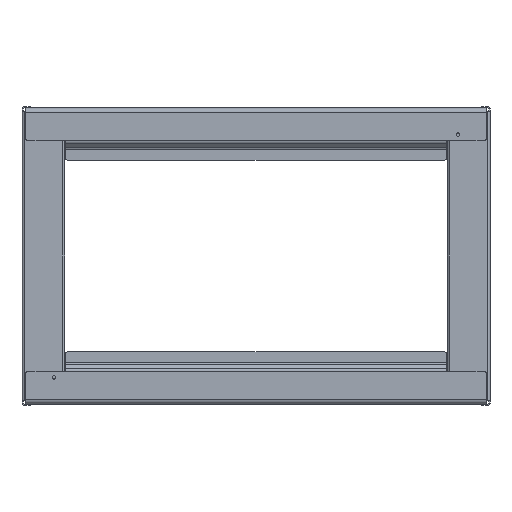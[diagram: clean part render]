
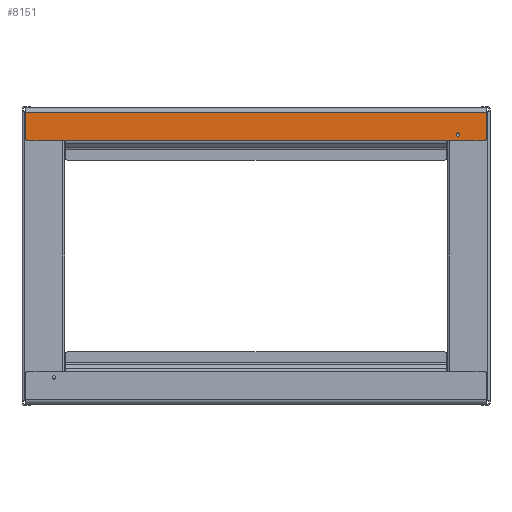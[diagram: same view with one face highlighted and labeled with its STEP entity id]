
A CAD part, left-side view. The second image highlights one B-rep face of the part: STEP entity #8151.
In plain terms, the highlighted planar face has unit normal (-1, 0, 0) as drawn and (1, 0, 0) by its records, which use the part's own axes.
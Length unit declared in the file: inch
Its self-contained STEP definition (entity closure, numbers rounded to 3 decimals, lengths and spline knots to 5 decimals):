
#5824=DIRECTION('',(0.,-1.,0.));
#5825=VECTOR('',#5824,21.63);
#5826=CARTESIAN_POINT('',(0.363,10.815,-0.218));
#5827=LINE('',#5826,#5825);
#5842=CARTESIAN_POINT('',(0.363,9.465,-1.25));
#5843=DIRECTION('',(-1.,0.,0.));
#5844=DIRECTION('',(0.,1.,0.));
#5845=AXIS2_PLACEMENT_3D('',#5842,#5843,#5844);
#5847=CARTESIAN_POINT('',(0.363,9.465,-1.25));
#5848=DIRECTION('',(-1.,0.,0.));
#5849=DIRECTION('',(0.,-1.,0.));
#5850=AXIS2_PLACEMENT_3D('',#5847,#5848,#5849);
#5852=CARTESIAN_POINT('',(0.363,10.69,-1.402));
#5853=DIRECTION('',(1.,0.,0.));
#5854=DIRECTION('',(0.,0.,-1.));
#5855=AXIS2_PLACEMENT_3D('',#5852,#5853,#5854);
#5857=DIRECTION('',(0.,1.,0.));
#5858=VECTOR('',#5857,1.75);
#5859=CARTESIAN_POINT('',(0.363,8.94,-1.527));
#5860=LINE('',#5859,#5858);
#5861=DIRECTION('',(0.,1.,0.));
#5862=VECTOR('',#5861,1.75);
#5863=CARTESIAN_POINT('',(0.363,-10.69,-1.527));
#5864=LINE('',#5863,#5862);
#5865=CARTESIAN_POINT('',(0.363,-10.69,-1.402));
#5866=DIRECTION('',(1.,0.,0.));
#5867=DIRECTION('',(0.,-1.,0.));
#5868=AXIS2_PLACEMENT_3D('',#5865,#5866,#5867);
#5870=DIRECTION('',(0.,0.,-1.));
#5871=VECTOR('',#5870,1.184);
#5872=CARTESIAN_POINT('',(0.363,-10.815,-0.218));
#5873=LINE('',#5872,#5871);
#5874=DIRECTION('',(0.,0.,1.));
#5875=VECTOR('',#5874,1.184);
#5876=CARTESIAN_POINT('',(0.363,10.815,-1.402));
#5877=LINE('',#5876,#5875);
#5955=DIRECTION('',(0.,-1.,0.));
#5956=VECTOR('',#5955,17.88);
#5957=CARTESIAN_POINT('',(0.363,8.94,-1.527));
#5958=LINE('',#5957,#5956);
#6152=CARTESIAN_POINT('',(0.363,10.815,-0.218));
#6153=CARTESIAN_POINT('',(0.363,-10.815,-0.218));
#6154=VERTEX_POINT('',#6152);
#6155=VERTEX_POINT('',#6153);
#6172=CARTESIAN_POINT('',(0.363,-8.94,-1.527));
#6173=VERTEX_POINT('',#6172);
#6174=CARTESIAN_POINT('',(0.363,8.94,-1.527));
#6175=VERTEX_POINT('',#6174);
#6496=CARTESIAN_POINT('',(0.363,10.69,-1.527));
#6497=CARTESIAN_POINT('',(0.363,10.815,-1.402));
#6498=VERTEX_POINT('',#6496);
#6499=VERTEX_POINT('',#6497);
#6512=CARTESIAN_POINT('',(0.363,-10.815,-1.402));
#6513=CARTESIAN_POINT('',(0.363,-10.69,-1.527));
#6514=VERTEX_POINT('',#6512);
#6515=VERTEX_POINT('',#6513);
#6544=CARTESIAN_POINT('',(0.363,9.543,-1.25));
#6545=CARTESIAN_POINT('',(0.363,9.387,-1.25));
#6546=VERTEX_POINT('',#6544);
#6547=VERTEX_POINT('',#6545);
#8123=CARTESIAN_POINT('',(0.363,-10.815,0.));
#8124=DIRECTION('',(1.,0.,0.));
#8125=DIRECTION('',(0.,-1.,0.));
#8126=AXIS2_PLACEMENT_3D('',#8123,#8124,#8125);
#8127=PLANE('',#8126);
#8129=ORIENTED_EDGE('',*,*,#8128,.F.);
#8131=ORIENTED_EDGE('',*,*,#8130,.F.);
#8133=ORIENTED_EDGE('',*,*,#8132,.T.);
#8135=ORIENTED_EDGE('',*,*,#8134,.F.);
#8137=ORIENTED_EDGE('',*,*,#8136,.F.);
#8139=ORIENTED_EDGE('',*,*,#8138,.F.);
#8140=ORIENTED_EDGE('',*,*,#8114,.F.);
#8142=ORIENTED_EDGE('',*,*,#8141,.F.);
#8143=EDGE_LOOP('',(#8129,#8131,#8133,#8135,#8137,#8139,#8140,#8142));
#8144=FACE_OUTER_BOUND('',#8143,.F.);
#8146=ORIENTED_EDGE('',*,*,#8145,.F.);
#8148=ORIENTED_EDGE('',*,*,#8147,.F.);
#8149=EDGE_LOOP('',(#8146,#8148));
#8150=FACE_BOUND('',#8149,.F.);
#5846=CIRCLE('',#5845,0.078);
#5851=CIRCLE('',#5850,0.078);
#5856=CIRCLE('',#5855,0.125);
#5869=CIRCLE('',#5868,0.125);
#8114=EDGE_CURVE('',#6154,#6155,#5827,.T.);
#8128=EDGE_CURVE('',#6498,#6499,#5856,.T.);
#8130=EDGE_CURVE('',#6175,#6498,#5860,.T.);
#8132=EDGE_CURVE('',#6175,#6173,#5958,.T.);
#8134=EDGE_CURVE('',#6515,#6173,#5864,.T.);
#8136=EDGE_CURVE('',#6514,#6515,#5869,.T.);
#8138=EDGE_CURVE('',#6155,#6514,#5873,.T.);
#8141=EDGE_CURVE('',#6499,#6154,#5877,.T.);
#8145=EDGE_CURVE('',#6546,#6547,#5846,.T.);
#8147=EDGE_CURVE('',#6547,#6546,#5851,.T.);
#8151=ADVANCED_FACE('',(#8144,#8150),#8127,.T.);
